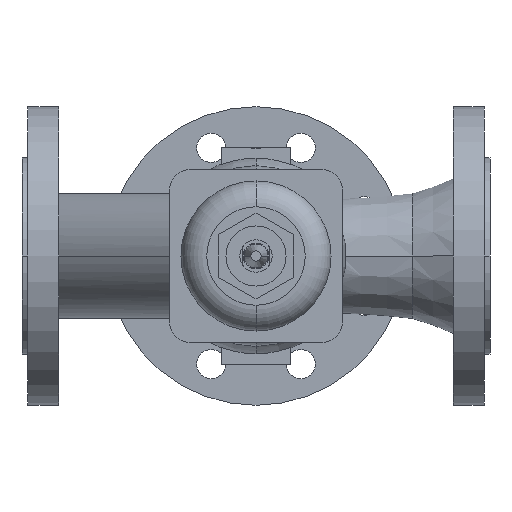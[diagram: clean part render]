
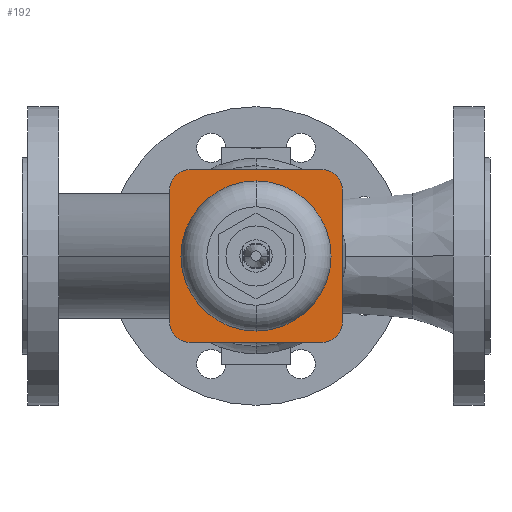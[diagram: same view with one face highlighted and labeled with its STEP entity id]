
A CAD part, front view. The second image highlights one B-rep face of the part: STEP entity #192.
In plain terms, the highlighted planar face has unit normal (0, -1, 0).
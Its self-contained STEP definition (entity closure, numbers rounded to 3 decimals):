
#192 = ADVANCED_FACE( '', ( #521, #522 ), #523, .T. );
#521 = FACE_OUTER_BOUND( '', #941, .T. );
#522 = FACE_BOUND( '', #942, .T. );
#523 = PLANE( '', #943 );
#941 = EDGE_LOOP( '', ( #2005, #2006, #2007, #2008, #2009, #2010, #2011, #2012 ) );
#942 = EDGE_LOOP( '', ( #2013, #2014 ) );
#943 = AXIS2_PLACEMENT_3D( '', #2015, #2016, #2017 );
#2005 = ORIENTED_EDGE( '', *, *, #2869, .T. );
#2006 = ORIENTED_EDGE( '', *, *, #2861, .T. );
#2007 = ORIENTED_EDGE( '', *, *, #2852, .T. );
#2008 = ORIENTED_EDGE( '', *, *, #2843, .T. );
#2009 = ORIENTED_EDGE( '', *, *, #2837, .T. );
#2010 = ORIENTED_EDGE( '', *, *, #2878, .T. );
#2011 = ORIENTED_EDGE( '', *, *, #2875, .T. );
#2012 = ORIENTED_EDGE( '', *, *, #2872, .T. );
#2013 = ORIENTED_EDGE( '', *, *, #2670, .F. );
#2014 = ORIENTED_EDGE( '', *, *, #2881, .F. );
#2015 = CARTESIAN_POINT( '', ( 86., -154.65, 0. ) );
#2016 = DIRECTION( '', ( 0., -1., 0. ) );
#2017 = DIRECTION( '', ( -1., 0., 0. ) );
#2670 = EDGE_CURVE( '', #3251, #3254, #3255, .T. );
#2837 = EDGE_CURVE( '', #3528, #3526, #3529, .T. );
#2843 = EDGE_CURVE( '', #3538, #3528, #3539, .T. );
#2852 = EDGE_CURVE( '', #3553, #3538, #3554, .T. );
#2861 = EDGE_CURVE( '', #3568, #3553, #3569, .T. );
#2869 = EDGE_CURVE( '', #3580, #3568, #3581, .T. );
#2872 = EDGE_CURVE( '', #3585, #3580, #3586, .T. );
#2875 = EDGE_CURVE( '', #3590, #3585, #3591, .T. );
#2878 = EDGE_CURVE( '', #3526, #3590, #3594, .T. );
#2881 = EDGE_CURVE( '', #3254, #3251, #3597, .T. );
#3251 = VERTEX_POINT( '', #4279 );
#3254 = VERTEX_POINT( '', #4283 );
#3255 = CIRCLE( '', #4284, 46.5 );
#3526 = VERTEX_POINT( '', #4627 );
#3528 = VERTEX_POINT( '', #4630 );
#3529 = LINE( '', #4631, #4632 );
#3538 = VERTEX_POINT( '', #4643 );
#3539 = CIRCLE( '', #4644, 13. );
#3553 = VERTEX_POINT( '', #4664 );
#3554 = LINE( '', #4665, #4666 );
#3568 = VERTEX_POINT( '', #4685 );
#3569 = CIRCLE( '', #4686, 13. );
#3580 = VERTEX_POINT( '', #4702 );
#3581 = LINE( '', #4703, #4704 );
#3585 = VERTEX_POINT( '', #4709 );
#3586 = CIRCLE( '', #4710, 13. );
#3590 = VERTEX_POINT( '', #4716 );
#3591 = LINE( '', #4717, #4718 );
#3594 = CIRCLE( '', #4722, 13. );
#3597 = CIRCLE( '', #4725, 46.5 );
#4279 = CARTESIAN_POINT( '', ( 98.5, -154.65, 0. ) );
#4283 = CARTESIAN_POINT( '', ( 191.5, -154.65, 0. ) );
#4284 = AXIS2_PLACEMENT_3D( '', #5300, #5301, #5302 );
#4627 = CARTESIAN_POINT( '', ( 198.659, -154.65, 40.659 ) );
#4630 = CARTESIAN_POINT( '', ( 198.659, -154.65, -40.659 ) );
#4631 = CARTESIAN_POINT( '', ( 198.659, -154.65, 20.329 ) );
#4632 = VECTOR( '', #5655, 1. );
#4643 = CARTESIAN_POINT( '', ( 185.659, -154.65, -53.659 ) );
#4644 = AXIS2_PLACEMENT_3D( '', #5667, #5668, #5669 );
#4664 = CARTESIAN_POINT( '', ( 104.341, -154.65, -53.659 ) );
#4665 = CARTESIAN_POINT( '', ( 115.5, -154.65, -53.659 ) );
#4666 = VECTOR( '', #5682, 1. );
#4685 = CARTESIAN_POINT( '', ( 91.341, -154.65, -40.659 ) );
#4686 = AXIS2_PLACEMENT_3D( '', #5697, #5698, #5699 );
#4702 = CARTESIAN_POINT( '', ( 91.341, -154.65, 40.659 ) );
#4703 = CARTESIAN_POINT( '', ( 91.341, -154.65, -20.329 ) );
#4704 = VECTOR( '', #5711, 1. );
#4709 = CARTESIAN_POINT( '', ( 104.341, -154.65, 53.659 ) );
#4710 = AXIS2_PLACEMENT_3D( '', #5716, #5717, #5718 );
#4716 = CARTESIAN_POINT( '', ( 185.659, -154.65, 53.659 ) );
#4717 = CARTESIAN_POINT( '', ( 95.171, -154.65, 53.659 ) );
#4718 = VECTOR( '', #5721, 1. );
#4722 = AXIS2_PLACEMENT_3D( '', #5726, #5727, #5728 );
#4725 = AXIS2_PLACEMENT_3D( '', #5735, #5736, #5737 );
#5300 = CARTESIAN_POINT( '', ( 145., -154.65, 0. ) );
#5301 = DIRECTION( '', ( 0., -1., 0. ) );
#5302 = DIRECTION( '', ( -1., 0., 0. ) );
#5655 = DIRECTION( '', ( 0., 0., 1. ) );
#5667 = CARTESIAN_POINT( '', ( 185.659, -154.65, -40.659 ) );
#5668 = DIRECTION( '', ( 0., -1., 0. ) );
#5669 = DIRECTION( '', ( 1., 0., 0. ) );
#5682 = DIRECTION( '', ( 1., 0., 0. ) );
#5697 = CARTESIAN_POINT( '', ( 104.341, -154.65, -40.659 ) );
#5698 = DIRECTION( '', ( 0., -1., 0. ) );
#5699 = DIRECTION( '', ( 0., 0., -1. ) );
#5711 = DIRECTION( '', ( 0., 0., -1. ) );
#5716 = CARTESIAN_POINT( '', ( 104.341, -154.65, 40.659 ) );
#5717 = DIRECTION( '', ( 0., -1., 0. ) );
#5718 = DIRECTION( '', ( -1., 0., 0. ) );
#5721 = DIRECTION( '', ( -1., 0., 0. ) );
#5726 = CARTESIAN_POINT( '', ( 185.659, -154.65, 40.659 ) );
#5727 = DIRECTION( '', ( 0., -1., 0. ) );
#5728 = DIRECTION( '', ( 0., 0., 1. ) );
#5735 = CARTESIAN_POINT( '', ( 145., -154.65, 0. ) );
#5736 = DIRECTION( '', ( 0., -1., 0. ) );
#5737 = DIRECTION( '', ( -1., 0., 0. ) );
